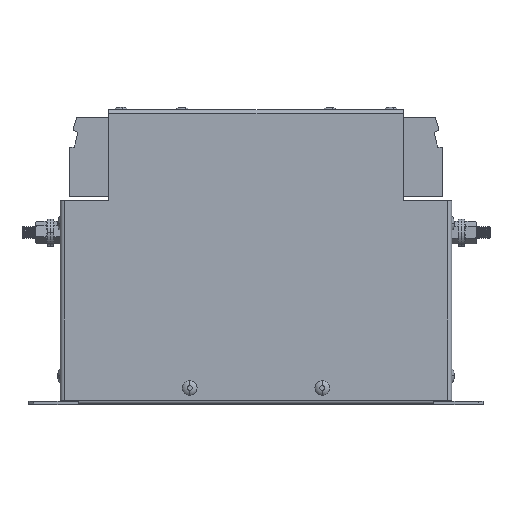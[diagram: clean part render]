
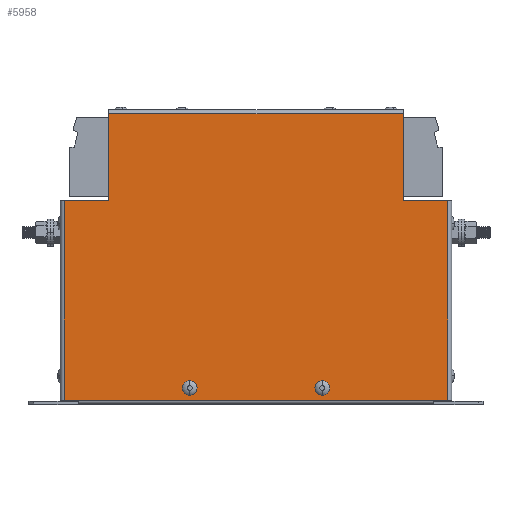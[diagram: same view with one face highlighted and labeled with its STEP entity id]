
A CAD part, top view. The second image highlights one B-rep face of the part: STEP entity #5958.
In plain terms, the highlighted planar face has unit normal (0, 0, 1).
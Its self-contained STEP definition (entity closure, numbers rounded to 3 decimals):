
#2 = AXIS2_PLACEMENT_3D ( 'NONE', #11140, #6441, #5408 ) ;
#52 = LINE ( 'NONE', #11393, #3162 ) ;
#53 = VECTOR ( 'NONE', #4356, 1000. ) ;
#355 = CARTESIAN_POINT ( 'NONE',  ( 27., -53.55, 0. ) ) ;
#690 = ORIENTED_EDGE ( 'NONE', *, *, #13347, .T. ) ;
#717 = VERTEX_POINT ( 'NONE', #3548 ) ;
#895 = CARTESIAN_POINT ( 'NONE',  ( -78.5, 22.75, 0. ) ) ;
#1076 = EDGE_CURVE ( 'NONE', #14751, #13047, #9496, .T. ) ;
#1181 = EDGE_CURVE ( 'NONE', #717, #6160, #14052, .T. ) ;
#1694 = VECTOR ( 'NONE', #10670, 1000. ) ;
#1865 = DIRECTION ( 'NONE',  ( 0., -1., 0. ) ) ;
#2060 = EDGE_CURVE ( 'NONE', #4723, #13759, #5293, .T. ) ;
#2302 = LINE ( 'NONE', #3090, #8129 ) ;
#2334 = DIRECTION ( 'NONE',  ( 1., 0., 0. ) ) ;
#2732 = CARTESIAN_POINT ( 'NONE',  ( 27., -53.55, 0. ) ) ;
#2762 = EDGE_CURVE ( 'NONE', #14751, #10693, #11977, .T. ) ;
#2941 = VECTOR ( 'NONE', #9844, 1000. ) ;
#3090 = CARTESIAN_POINT ( 'NONE',  ( 78.5, 22.75, 0. ) ) ;
#3096 = VERTEX_POINT ( 'NONE', #8423 ) ;
#3162 = VECTOR ( 'NONE', #14986, 1000. ) ;
#3178 = CARTESIAN_POINT ( 'NONE',  ( -78., 22.75, 0. ) ) ;
#3190 = EDGE_CURVE ( 'NONE', #13141, #3096, #6717, .T. ) ;
#3548 = CARTESIAN_POINT ( 'NONE',  ( 60., 58.05, 0. ) ) ;
#3551 = ORIENTED_EDGE ( 'NONE', *, *, #1076, .F. ) ;
#3758 = FACE_BOUND ( 'NONE', #8029, .T. ) ;
#3990 = DIRECTION ( 'NONE',  ( 1., 0., 0. ) ) ;
#4294 = EDGE_CURVE ( 'NONE', #6409, #14950, #8676, .T. ) ;
#4356 = DIRECTION ( 'NONE',  ( 1., 0., 0. ) ) ;
#4569 = ORIENTED_EDGE ( 'NONE', *, *, #2762, .T. ) ;
#4723 = VERTEX_POINT ( 'NONE', #6696 ) ;
#4730 = EDGE_CURVE ( 'NONE', #6160, #13759, #2302, .T. ) ;
#4857 = EDGE_CURVE ( 'NONE', #3096, #13141, #15036, .T. ) ;
#5293 = LINE ( 'NONE', #13349, #2941 ) ;
#5311 = PLANE ( 'NONE',  #2 ) ;
#5368 = ORIENTED_EDGE ( 'NONE', *, *, #3190, .F. ) ;
#5408 = DIRECTION ( 'NONE',  ( 1., 0., 0. ) ) ;
#5659 = AXIS2_PLACEMENT_3D ( 'NONE', #355, #7441, #14286 ) ;
#5894 = CARTESIAN_POINT ( 'NONE',  ( -78., -58.55, 0. ) ) ;
#5958 = ADVANCED_FACE ( 'NONE', ( #3758, #12994, #13179 ), #5311, .T. ) ;
#5963 = ORIENTED_EDGE ( 'NONE', *, *, #7329, .F. ) ;
#6160 = VERTEX_POINT ( 'NONE', #14817 ) ;
#6409 = VERTEX_POINT ( 'NONE', #8355 ) ;
#6441 = DIRECTION ( 'NONE',  ( 0., 0., 1. ) ) ;
#6696 = CARTESIAN_POINT ( 'NONE',  ( 78., -58.55, 0. ) ) ;
#6717 = CIRCLE ( 'NONE', #8463, 1.75 ) ;
#6778 = AXIS2_PLACEMENT_3D ( 'NONE', #12597, #14851, #13622 ) ;
#6838 = ORIENTED_EDGE ( 'NONE', *, *, #8646, .F. ) ;
#6988 = ORIENTED_EDGE ( 'NONE', *, *, #4857, .F. ) ;
#7024 = CARTESIAN_POINT ( 'NONE',  ( 60., 58.05, 0. ) ) ;
#7329 = EDGE_CURVE ( 'NONE', #13047, #13024, #52, .T. ) ;
#7441 = DIRECTION ( 'NONE',  ( 0., 0., 1. ) ) ;
#8029 = EDGE_LOOP ( 'NONE', ( #5368, #6988 ) ) ;
#8129 = VECTOR ( 'NONE', #13791, 1000. ) ;
#8271 = CARTESIAN_POINT ( 'NONE',  ( -60., 22.75, 0. ) ) ;
#8355 = CARTESIAN_POINT ( 'NONE',  ( -25.25, -53.55, 0. ) ) ;
#8423 = CARTESIAN_POINT ( 'NONE',  ( 25.25, -53.55, 0. ) ) ;
#8457 = CARTESIAN_POINT ( 'NONE',  ( -28.75, -53.55, 0. ) ) ;
#8463 = AXIS2_PLACEMENT_3D ( 'NONE', #2732, #9663, #3990 ) ;
#8617 = ORIENTED_EDGE ( 'NONE', *, *, #2060, .T. ) ;
#8646 = EDGE_CURVE ( 'NONE', #14950, #6409, #10199, .T. ) ;
#8676 = CIRCLE ( 'NONE', #9324, 1.75 ) ;
#8830 = EDGE_CURVE ( 'NONE', #717, #13024, #12564, .T. ) ;
#8988 = LINE ( 'NONE', #10326, #12609 ) ;
#9324 = AXIS2_PLACEMENT_3D ( 'NONE', #9481, #11798, #2334 ) ;
#9481 = CARTESIAN_POINT ( 'NONE',  ( -27., -53.55, 0. ) ) ;
#9496 = LINE ( 'NONE', #895, #53 ) ;
#9663 = DIRECTION ( 'NONE',  ( 0., 0., 1. ) ) ;
#9844 = DIRECTION ( 'NONE',  ( 0., 1., 0. ) ) ;
#9873 = CARTESIAN_POINT ( 'NONE',  ( 28.75, -53.55, 0. ) ) ;
#9924 = DIRECTION ( 'NONE',  ( 1., 0., 0. ) ) ;
#9926 = CARTESIAN_POINT ( 'NONE',  ( -78., 22.75, 0. ) ) ;
#10072 = CARTESIAN_POINT ( 'NONE',  ( 60., 58.55, 0. ) ) ;
#10199 = CIRCLE ( 'NONE', #6778, 1.75 ) ;
#10253 = EDGE_LOOP ( 'NONE', ( #11614, #6838 ) ) ;
#10304 = ORIENTED_EDGE ( 'NONE', *, *, #4730, .F. ) ;
#10326 = CARTESIAN_POINT ( 'NONE',  ( -78.5, -58.55, 0. ) ) ;
#10670 = DIRECTION ( 'NONE',  ( 0., -1., 0. ) ) ;
#10693 = VERTEX_POINT ( 'NONE', #5894 ) ;
#10751 = ORIENTED_EDGE ( 'NONE', *, *, #8830, .T. ) ;
#11140 = CARTESIAN_POINT ( 'NONE',  ( 0., 0., 0. ) ) ;
#11393 = CARTESIAN_POINT ( 'NONE',  ( -60., 58.55, 0. ) ) ;
#11614 = ORIENTED_EDGE ( 'NONE', *, *, #4294, .F. ) ;
#11798 = DIRECTION ( 'NONE',  ( 0., 0., 1. ) ) ;
#11914 = EDGE_LOOP ( 'NONE', ( #3551, #4569, #690, #8617, #10304, #12851, #10751, #5963 ) ) ;
#11977 = LINE ( 'NONE', #9926, #13433 ) ;
#12194 = VECTOR ( 'NONE', #13035, 1000. ) ;
#12564 = LINE ( 'NONE', #7024, #12194 ) ;
#12597 = CARTESIAN_POINT ( 'NONE',  ( -27., -53.55, 0. ) ) ;
#12609 = VECTOR ( 'NONE', #9924, 1000. ) ;
#12851 = ORIENTED_EDGE ( 'NONE', *, *, #1181, .F. ) ;
#12994 = FACE_BOUND ( 'NONE', #10253, .T. ) ;
#13018 = CARTESIAN_POINT ( 'NONE',  ( -60., 58.05, 0. ) ) ;
#13024 = VERTEX_POINT ( 'NONE', #13018 ) ;
#13035 = DIRECTION ( 'NONE',  ( -1., 0., 0. ) ) ;
#13047 = VERTEX_POINT ( 'NONE', #8271 ) ;
#13141 = VERTEX_POINT ( 'NONE', #9873 ) ;
#13179 = FACE_OUTER_BOUND ( 'NONE', #11914, .T. ) ;
#13347 = EDGE_CURVE ( 'NONE', #10693, #4723, #8988, .T. ) ;
#13349 = CARTESIAN_POINT ( 'NONE',  ( 78., -58.55, 0. ) ) ;
#13433 = VECTOR ( 'NONE', #1865, 1000. ) ;
#13622 = DIRECTION ( 'NONE',  ( 1., 0., 0. ) ) ;
#13759 = VERTEX_POINT ( 'NONE', #14566 ) ;
#13791 = DIRECTION ( 'NONE',  ( 1., 0., 0. ) ) ;
#14052 = LINE ( 'NONE', #10072, #1694 ) ;
#14286 = DIRECTION ( 'NONE',  ( 1., 0., 0. ) ) ;
#14566 = CARTESIAN_POINT ( 'NONE',  ( 78., 22.75, 0. ) ) ;
#14751 = VERTEX_POINT ( 'NONE', #3178 ) ;
#14817 = CARTESIAN_POINT ( 'NONE',  ( 60., 22.75, 0. ) ) ;
#14851 = DIRECTION ( 'NONE',  ( 0., 0., 1. ) ) ;
#14950 = VERTEX_POINT ( 'NONE', #8457 ) ;
#14986 = DIRECTION ( 'NONE',  ( 0., 1., 0. ) ) ;
#15036 = CIRCLE ( 'NONE', #5659, 1.75 ) ;
